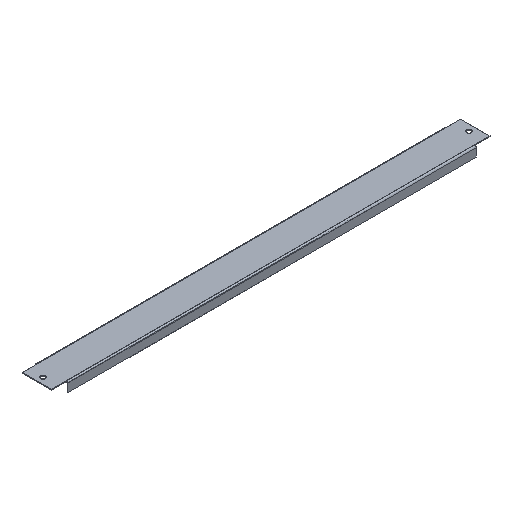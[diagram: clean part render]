
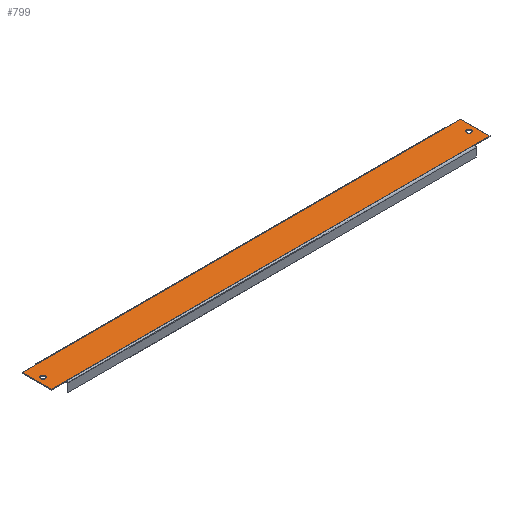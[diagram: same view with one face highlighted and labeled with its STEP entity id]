
A CAD part, isometric view. The second image highlights one B-rep face of the part: STEP entity #799.
In plain terms, the highlighted planar face has unit normal (0, 0, 1).
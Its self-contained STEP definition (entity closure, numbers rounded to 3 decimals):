
#19 = VECTOR ( 'NONE', #427, 1000. ) ;
#23 = VECTOR ( 'NONE', #439, 1000. ) ;
#25 = AXIS2_PLACEMENT_3D ( 'NONE', #474, #438, #437 ) ;
#27 = VECTOR ( 'NONE', #448, 1000. ) ;
#28 = VECTOR ( 'NONE', #480, 1000. ) ;
#31 = VECTOR ( 'NONE', #479, 1000. ) ;
#32 = VECTOR ( 'NONE', #473, 1000. ) ;
#34 = VECTOR ( 'NONE', #468, 1000. ) ;
#35 = AXIS2_PLACEMENT_3D ( 'NONE', #462, #472, #475 ) ;
#81 = FACE_OUTER_BOUND ( 'NONE', #685, .T. ) ;
#83 = AXIS2_PLACEMENT_3D ( 'NONE', #345, #350, #348 ) ;
#84 = FACE_BOUND ( 'NONE', #684, .T. ) ;
#86 = FACE_BOUND ( 'NONE', #679, .T. ) ;
#87 = AXIS2_PLACEMENT_3D ( 'NONE', #349, #361, #354 ) ;
#104 = AXIS2_PLACEMENT_3D ( 'NONE', #158, #165, #166 ) ;
#121 = VECTOR ( 'NONE', #164, 1000. ) ;
#158 = CARTESIAN_POINT ( 'NONE',  ( -322.75, 0., 1.2 ) ) ;
#161 = CARTESIAN_POINT ( 'NONE',  ( -332.5, -22.1, 1.2 ) ) ;
#163 = LINE ( 'NONE', #161, #121 ) ;
#164 = DIRECTION ( 'NONE',  ( 1., 0., 0. ) ) ;
#165 = DIRECTION ( 'NONE',  ( 0., 0., 1. ) ) ;
#166 = DIRECTION ( 'NONE',  ( 1., 0., 0. ) ) ;
#345 = CARTESIAN_POINT ( 'NONE',  ( -332.5, -24.5, 1.2 ) ) ;
#347 = PLANE ( 'NONE',  #83 ) ;
#348 = DIRECTION ( 'NONE',  ( 1., 0., 0. ) ) ;
#349 = CARTESIAN_POINT ( 'NONE',  ( 322.75, 0., 1.2 ) ) ;
#350 = DIRECTION ( 'NONE',  ( 0., 0., 1. ) ) ;
#354 = DIRECTION ( 'NONE',  ( 1., 0., 0. ) ) ;
#361 = DIRECTION ( 'NONE',  ( 0., 0., -1. ) ) ;
#427 = DIRECTION ( 'NONE',  ( 0., -1., 0. ) ) ;
#428 = CARTESIAN_POINT ( 'NONE',  ( -332.5, 24.5, 1.2 ) ) ;
#429 = LINE ( 'NONE', #428, #19 ) ;
#437 = DIRECTION ( 'NONE',  ( 1., 0., 0. ) ) ;
#438 = DIRECTION ( 'NONE',  ( 0., 0., -1. ) ) ;
#439 = DIRECTION ( 'NONE',  ( 1., 0., 0. ) ) ;
#440 = CARTESIAN_POINT ( 'NONE',  ( -309.5, -22.1, 1.2 ) ) ;
#441 = LINE ( 'NONE', #440, #23 ) ;
#448 = DIRECTION ( 'NONE',  ( 1., 0., 0. ) ) ;
#451 = CARTESIAN_POINT ( 'NONE',  ( 309.5, 22.1, 1.2 ) ) ;
#453 = CARTESIAN_POINT ( 'NONE',  ( 332.5, 22.1, 1.2 ) ) ;
#454 = CARTESIAN_POINT ( 'NONE',  ( -319.25, 0., 1.2 ) ) ;
#462 = CARTESIAN_POINT ( 'NONE',  ( -322.75, 0., 1.2 ) ) ;
#466 = LINE ( 'NONE', #469, #34 ) ;
#468 = DIRECTION ( 'NONE',  ( -1., 0., 0. ) ) ;
#469 = CARTESIAN_POINT ( 'NONE',  ( 309.5, 22.1, 1.2 ) ) ;
#470 = CARTESIAN_POINT ( 'NONE',  ( -332.5, 22.1, 1.2 ) ) ;
#471 = LINE ( 'NONE', #470, #32 ) ;
#472 = DIRECTION ( 'NONE',  ( 0., 0., 1. ) ) ;
#473 = DIRECTION ( 'NONE',  ( -1., 0., 0. ) ) ;
#474 = CARTESIAN_POINT ( 'NONE',  ( 322.75, 0., 1.2 ) ) ;
#475 = DIRECTION ( 'NONE',  ( 1., 0., 0. ) ) ;
#476 = CARTESIAN_POINT ( 'NONE',  ( -332.5, 22.1, 1.2 ) ) ;
#477 = LINE ( 'NONE', #476, #31 ) ;
#478 = LINE ( 'NONE', #481, #28 ) ;
#479 = DIRECTION ( 'NONE',  ( -1., 0., 0. ) ) ;
#480 = DIRECTION ( 'NONE',  ( 0., 1., 0. ) ) ;
#481 = CARTESIAN_POINT ( 'NONE',  ( 332.5, 24.5, 1.2 ) ) ;
#482 = CARTESIAN_POINT ( 'NONE',  ( -332.5, -22.1, 1.2 ) ) ;
#483 = LINE ( 'NONE', #482, #27 ) ;
#485 = CARTESIAN_POINT ( 'NONE',  ( -309.5, -22.1, 1.2 ) ) ;
#486 = CARTESIAN_POINT ( 'NONE',  ( 326.25, 0., 1.2 ) ) ;
#493 = CARTESIAN_POINT ( 'NONE',  ( 319.25, 0., 1.2 ) ) ;
#494 = CARTESIAN_POINT ( 'NONE',  ( -332.5, -22.1, 1.2 ) ) ;
#495 = CARTESIAN_POINT ( 'NONE',  ( -326.25, 0., 1.2 ) ) ;
#497 = CARTESIAN_POINT ( 'NONE',  ( 309.5, -22.1, 1.2 ) ) ;
#499 = CARTESIAN_POINT ( 'NONE',  ( -332.5, 22.1, 1.2 ) ) ;
#507 = CARTESIAN_POINT ( 'NONE',  ( 332.5, -22.1, 1.2 ) ) ;
#515 = VERTEX_POINT ( 'NONE', #524 ) ;
#524 = CARTESIAN_POINT ( 'NONE',  ( -309.5, 22.1, 1.2 ) ) ;
#536 = ORIENTED_EDGE ( 'NONE', *, *, #753, .T. ) ;
#537 = ORIENTED_EDGE ( 'NONE', *, *, #749, .T. ) ;
#539 = ORIENTED_EDGE ( 'NONE', *, *, #831, .T. ) ;
#540 = ORIENTED_EDGE ( 'NONE', *, *, #746, .T. ) ;
#542 = ORIENTED_EDGE ( 'NONE', *, *, #745, .T. ) ;
#543 = ORIENTED_EDGE ( 'NONE', *, *, #742, .T. ) ;
#544 = ORIENTED_EDGE ( 'NONE', *, *, #741, .T. ) ;
#545 = ORIENTED_EDGE ( 'NONE', *, *, #744, .T. ) ;
#546 = ORIENTED_EDGE ( 'NONE', *, *, #805, .T. ) ;
#547 = ORIENTED_EDGE ( 'NONE', *, *, #743, .F. ) ;
#549 = ORIENTED_EDGE ( 'NONE', *, *, #832, .F. ) ;
#550 = ORIENTED_EDGE ( 'NONE', *, *, #750, .T. ) ;
#679 = EDGE_LOOP ( 'NONE', ( #546, #550 ) ) ;
#684 = EDGE_LOOP ( 'NONE', ( #547, #549 ) ) ;
#685 = EDGE_LOOP ( 'NONE', ( #536, #539, #537, #540, #542, #543, #544, #545 ) ) ;
#712 = VERTEX_POINT ( 'NONE', #507 ) ;
#718 = VERTEX_POINT ( 'NONE', #499 ) ;
#720 = VERTEX_POINT ( 'NONE', #497 ) ;
#722 = VERTEX_POINT ( 'NONE', #495 ) ;
#723 = VERTEX_POINT ( 'NONE', #494 ) ;
#724 = VERTEX_POINT ( 'NONE', #493 ) ;
#726 = VERTEX_POINT ( 'NONE', #486 ) ;
#728 = VERTEX_POINT ( 'NONE', #485 ) ;
#730 = VERTEX_POINT ( 'NONE', #454 ) ;
#731 = VERTEX_POINT ( 'NONE', #453 ) ;
#733 = VERTEX_POINT ( 'NONE', #451 ) ;
#741 = EDGE_CURVE ( 'NONE', #733, #515, #466, .T. ) ;
#742 = EDGE_CURVE ( 'NONE', #731, #733, #471, .T. ) ;
#743 = EDGE_CURVE ( 'NONE', #730, #722, #827, .T. ) ;
#744 = EDGE_CURVE ( 'NONE', #515, #718, #477, .T. ) ;
#745 = EDGE_CURVE ( 'NONE', #712, #731, #478, .T. ) ;
#746 = EDGE_CURVE ( 'NONE', #720, #712, #483, .T. ) ;
#749 = EDGE_CURVE ( 'NONE', #728, #720, #441, .T. ) ;
#750 = EDGE_CURVE ( 'NONE', #724, #726, #824, .T. ) ;
#753 = EDGE_CURVE ( 'NONE', #718, #723, #429, .T. ) ;
#791 = CIRCLE ( 'NONE', #87, 3.5 ) ;
#799 = ADVANCED_FACE ( 'NONE', ( #81, #84, #86 ), #347, .T. ) ;
#802 = CIRCLE ( 'NONE', #104, 3.5 ) ;
#805 = EDGE_CURVE ( 'NONE', #726, #724, #791, .T. ) ;
#824 = CIRCLE ( 'NONE', #25, 3.5 ) ;
#827 = CIRCLE ( 'NONE', #35, 3.5 ) ;
#831 = EDGE_CURVE ( 'NONE', #723, #728, #163, .T. ) ;
#832 = EDGE_CURVE ( 'NONE', #722, #730, #802, .T. ) ;
